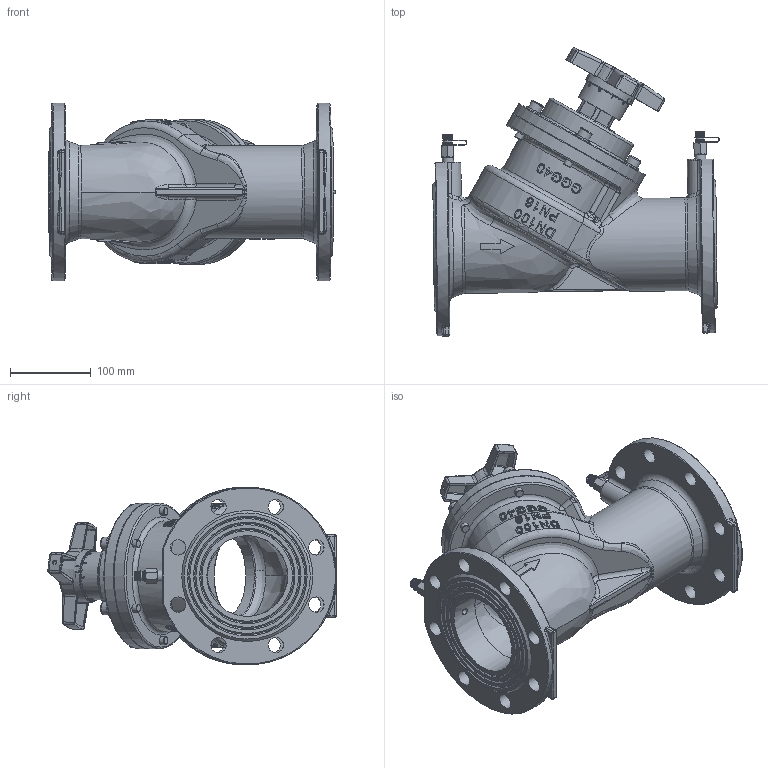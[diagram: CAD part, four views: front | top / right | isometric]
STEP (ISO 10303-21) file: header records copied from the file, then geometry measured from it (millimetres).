
FILE_DESCRIPTION(/* description */ ('STEP AP203'),/* implementation_level */ '2;1');
FILE_NAME(/* name */ 'RSV55 DN100.stp',/* time_stamp */ '2024-09-17T15:01:37+07:00',/* author */ ('Eva'),/* organization */ ('MicroSoft'),/* preprocessor_version */ 'ST-DEVELOPER v20',/* originating_system */ 'Autodesk Inventor 2025',/* authorisation */ '');
FILE_SCHEMA (('AUTOMOTIVE_DESIGN { 1 0 10303 214 3 1 1 }'));
Products named in the file (13): DN100平衡阀装配体; DSSV100-0FP01-01-A6-Model; DSSV100-0FP01-02平阀盖125; TEST  NOZZLE; plain washers--product grade c gb_GB_FASTENER_WASHER_SMWC 10; hexagon socket head cap screws gb_GB_FASTENER_SCREWS_HSHCS M10X40-N; HW125-TH19-18-00 - 双视窗; HW125-TH19-18-02-无圆角; HW125-TH19-18-01副本-无圆角2; HW125-TH19-18-03-无圆角; HW125-TH19-18-05-无圆角; HW125-TH19-18-06-无圆角; HW125-TH19-18-07-无圆角
Assembly tree (23 placements, depth 3):
  DN100平衡阀装配体
    DSSV100-0FP01-01-A6-Model
    DSSV100-0FP01-02平阀盖125
    TEST  NOZZLE  x2
    plain washers--product grade c gb_GB_FASTENER_WASHER_SMWC 10  x6
    hexagon socket head cap screws gb_GB_FASTENER_SCREWS_HSHCS M10X40-N  x6
    HW125-TH19-18-00 - 双视窗
      HW125-TH19-18-02-无圆角
      HW125-TH19-18-01副本-无圆角2
      HW125-TH19-18-03-无圆角
      HW125-TH19-18-05-无圆角
      HW125-TH19-18-06-无圆角
      HW125-TH19-18-07-无圆角
Bounding box: 354.16 x 356.47 x 219.56 mm (x, y, z)
Volume: 3232374.9 mm3; surface area: 715021.3 mm2
Topology: 26 solids, 26 shells, 5431 faces, 13470 edges, 8443 vertices
Faces by surface type: plane 2236, cylinder 1320, bspline 941, torus 685, cone 132, sphere 117
Full cylindrical faces by diameter (mm): 0.5 x1, 1.5 x4, 1.6 x4, 4 x2, 4.94 x2, 5 x5, 5.991 x2, 6 x2, 7 x1, 7.6 x2, 7.8 x2, 7.933 x2, 8.5 x6, 9 x3, 10 x6, 10.625 x14, 10.907 x4, 11 x7, 11.8 x2, 12 x25, 13.7 x2, 14 x2, 16 x6, 18 x1, 19 x16, 20 x6, 20.3 x3, 21 x1, 22.2 x2, 24.6 x2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
Entity records: 223552 total; most frequent: CARTESIAN_POINT 107122, ORIENTED_EDGE 25076, DIRECTION 22857, EDGE_CURVE 12538, AXIS2_PLACEMENT_3D 8528, VERTEX_POINT 7891, LINE 5801, VECTOR 5801
